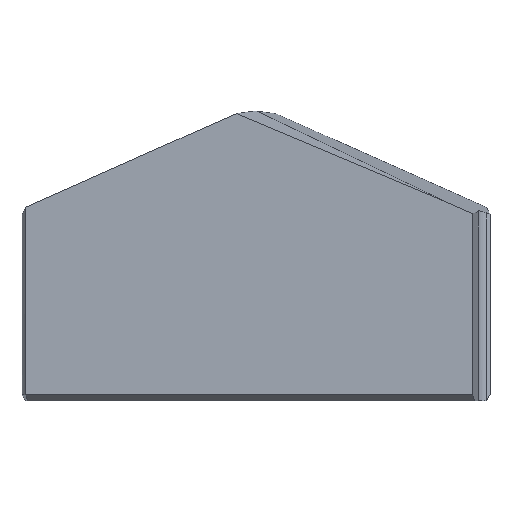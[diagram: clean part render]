
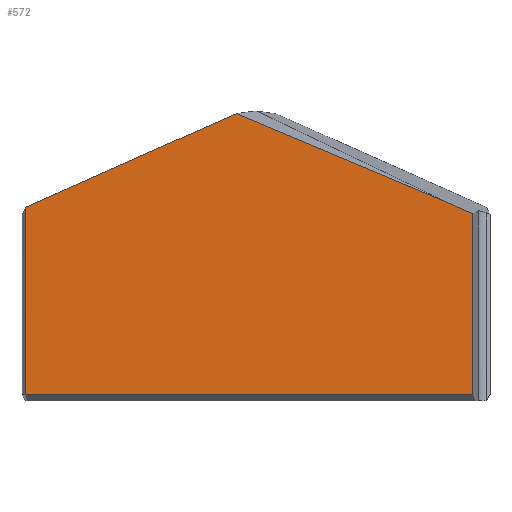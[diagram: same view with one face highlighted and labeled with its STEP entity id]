
A CAD part, top view. The second image highlights one B-rep face of the part: STEP entity #572.
In plain terms, the highlighted planar face has unit normal (0, 0, 1).
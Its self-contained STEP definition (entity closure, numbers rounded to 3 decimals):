
#2 = ORIENTED_EDGE ( 'NONE', *, *, #514, .T. ) ;
#4 = CARTESIAN_POINT ( 'NONE',  ( -0.975, 14.126, 4. ) ) ;
#15 = CARTESIAN_POINT ( 'NONE',  ( -11.328, 0.289, 4. ) ) ;
#18 = VECTOR ( 'NONE', #593, 1000. ) ;
#25 = ORIENTED_EDGE ( 'NONE', *, *, #463, .T. ) ;
#32 = VERTEX_POINT ( 'NONE', #183 ) ;
#49 = EDGE_CURVE ( 'NONE', #445, #436, #145, .T. ) ;
#54 = EDGE_CURVE ( 'NONE', #448, #142, #618, .T. ) ;
#57 = VECTOR ( 'NONE', #408, 1000. ) ;
#59 = ORIENTED_EDGE ( 'NONE', *, *, #49, .T. ) ;
#67 = VECTOR ( 'NONE', #524, 1000. ) ;
#80 = LINE ( 'NONE', #494, #305 ) ;
#117 = AXIS2_PLACEMENT_3D ( 'NONE', #496, #407, #592 ) ;
#142 = VERTEX_POINT ( 'NONE', #443 ) ;
#145 = B_SPLINE_CURVE_WITH_KNOTS ( 'NONE', 3,
 ( #619, #421, #240, #279 ),
 .UNSPECIFIED., .F., .F.,
 ( 4, 4 ),
 ( 0., 0. ),
 .UNSPECIFIED. ) ;
#163 = LINE ( 'NONE', #166, #18 ) ;
#166 = CARTESIAN_POINT ( 'NONE',  ( 0., 14.56, 4. ) ) ;
#170 = ORIENTED_EDGE ( 'NONE', *, *, #616, .F. ) ;
#183 = CARTESIAN_POINT ( 'NONE',  ( 9.378, 9.769, 4. ) ) ;
#204 = DIRECTION ( 'NONE',  ( -0.922, 0.388, 0. ) ) ;
#210 = VECTOR ( 'NONE', #204, 1000. ) ;
#218 = VERTEX_POINT ( 'NONE', #478 ) ;
#225 = CARTESIAN_POINT ( 'NONE',  ( 5.181, 11.638, 4. ) ) ;
#240 = CARTESIAN_POINT ( 'NONE',  ( -11.33, 0.292, 4. ) ) ;
#262 = ORIENTED_EDGE ( 'NONE', *, *, #313, .T. ) ;
#279 = CARTESIAN_POINT ( 'NONE',  ( -11.328, 0.289, 4. ) ) ;
#294 = VERTEX_POINT ( 'NONE', #4 ) ;
#305 = VECTOR ( 'NONE', #442, 1000. ) ;
#307 = PLANE ( 'NONE',  #117 ) ;
#313 = EDGE_CURVE ( 'NONE', #294, #218, #163, .T. ) ;
#319 = CARTESIAN_POINT ( 'NONE',  ( 10.66, 0.289, 4. ) ) ;
#364 = CARTESIAN_POINT ( 'NONE',  ( -11.335, 0., 4. ) ) ;
#376 = ORIENTED_EDGE ( 'NONE', *, *, #54, .T. ) ;
#403 = LINE ( 'NONE', #364, #57 ) ;
#407 = DIRECTION ( 'NONE',  ( 0., 0., 1. ) ) ;
#408 = DIRECTION ( 'NONE',  ( 0., 1., 0. ) ) ;
#421 = CARTESIAN_POINT ( 'NONE',  ( -11.333, 0.296, 4. ) ) ;
#423 = CARTESIAN_POINT ( 'NONE',  ( 10.66, 0., 4. ) ) ;
#429 = DIRECTION ( 'NONE',  ( 0., 1., 0. ) ) ;
#433 = EDGE_LOOP ( 'NONE', ( #25, #630, #262, #170, #59, #2, #376 ) ) ;
#436 = VERTEX_POINT ( 'NONE', #15 ) ;
#442 = DIRECTION ( 'NONE',  ( 1., 0., 0. ) ) ;
#443 = CARTESIAN_POINT ( 'NONE',  ( 10.66, 9.198, 4. ) ) ;
#445 = VERTEX_POINT ( 'NONE', #554 ) ;
#448 = VERTEX_POINT ( 'NONE', #319 ) ;
#449 = CARTESIAN_POINT ( 'NONE',  ( 4.904, 11.652, 4. ) ) ;
#463 = EDGE_CURVE ( 'NONE', #142, #32, #576, .T. ) ;
#478 = CARTESIAN_POINT ( 'NONE',  ( -11.335, 9.513, 4. ) ) ;
#489 = FACE_OUTER_BOUND ( 'NONE', #433, .T. ) ;
#494 = CARTESIAN_POINT ( 'NONE',  ( 11.159, 0.289, 4. ) ) ;
#496 = CARTESIAN_POINT ( 'NONE',  ( 0., 0., 4. ) ) ;
#514 = EDGE_CURVE ( 'NONE', #436, #448, #80, .T. ) ;
#524 = DIRECTION ( 'NONE',  ( -0.914, 0.407, 0. ) ) ;
#541 = LINE ( 'NONE', #449, #210 ) ;
#554 = CARTESIAN_POINT ( 'NONE',  ( -11.335, 0.3, 4. ) ) ;
#556 = EDGE_CURVE ( 'NONE', #32, #294, #541, .T. ) ;
#565 = VECTOR ( 'NONE', #429, 1000. ) ;
#572 = ADVANCED_FACE ( 'NONE', ( #489 ), #307, .T. ) ;
#576 = LINE ( 'NONE', #225, #67 ) ;
#592 = DIRECTION ( 'NONE',  ( 1., 0., 0. ) ) ;
#593 = DIRECTION ( 'NONE',  ( -0.914, -0.407, 0. ) ) ;
#616 = EDGE_CURVE ( 'NONE', #445, #218, #403, .T. ) ;
#618 = LINE ( 'NONE', #423, #565 ) ;
#619 = CARTESIAN_POINT ( 'NONE',  ( -11.335, 0.3, 4. ) ) ;
#630 = ORIENTED_EDGE ( 'NONE', *, *, #556, .T. ) ;
